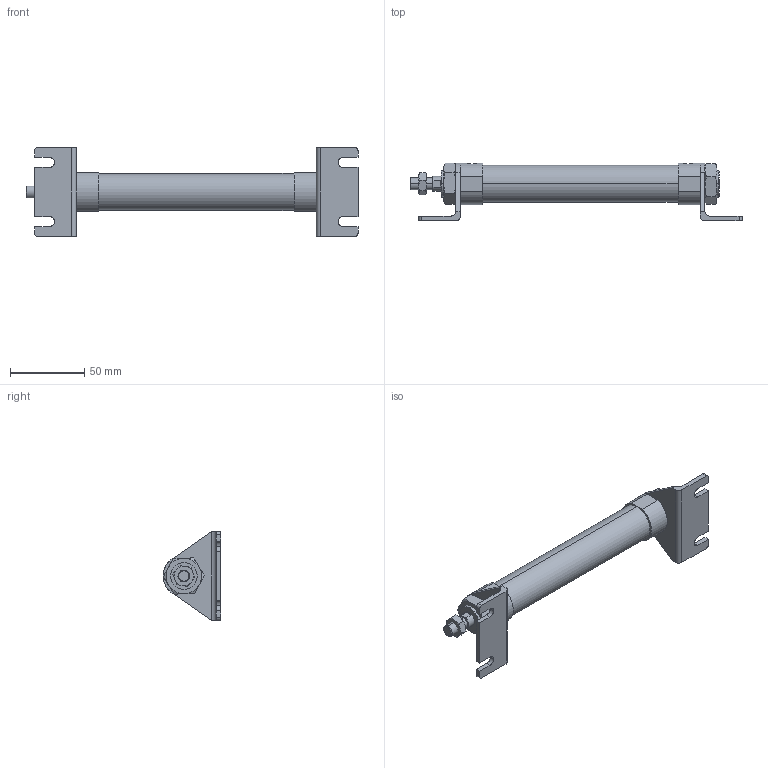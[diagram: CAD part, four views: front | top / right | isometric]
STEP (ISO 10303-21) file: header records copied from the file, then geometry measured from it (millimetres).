
FILE_DESCRIPTION (( 'STEP AP203' ), '1' );
FILE_NAME ('J#2-20-100-L.STEP', '2016-03-10T00:50:34', ( '' ), ( '' ), 'SwSTEP 2.0', 'SolidWorks 2014', '' );
FILE_SCHEMA (( 'CONFIG_CONTROL_DESIGN' ));
Length unit declared in the file: millimetre
Products named in the file (5): J#2-20-100; J#2-20-100-L; J#2-20-L
Assembly tree (6 placements, depth 2):
  J#2-20-100-L
    J#2-20-100
    (unnamed)
    (unnamed)  x2
    J#2-20-L  x2
Bounding box: 224.2 x 39 x 60 mm (x, y, z)
Volume: 111067.7 mm3; surface area: 33137.6 mm2
Topology: 6 solids, 6 shells, 168 faces, 392 edges, 246 vertices
Faces by surface type: plane 74, cylinder 52, torus 36, cone 6
Entity records: 4278 total; most frequent: CARTESIAN_POINT 1025, DIRECTION 577, ORIENTED_EDGE 542, EDGE_CURVE 271, AXIS2_PLACEMENT_3D 234, VERTEX_POINT 170, EDGE_LOOP 135, ADVANCED_FACE 119
